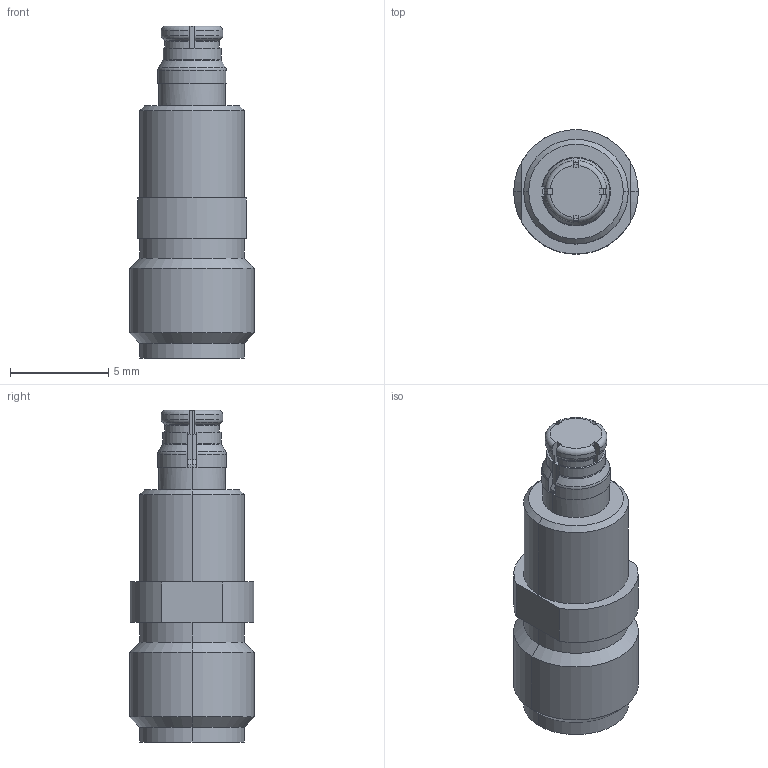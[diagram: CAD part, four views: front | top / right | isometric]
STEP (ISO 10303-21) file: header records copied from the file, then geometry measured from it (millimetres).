
FILE_DESCRIPTION (( 'STEP AP214' ), '1' );
FILE_NAME ('1115-6083.STEP', '2018-12-10T21:33:42', ( '' ), ( '' ), 'SwSTEP 2.0', 'SolidWorks 2016', '' );
FILE_SCHEMA (( 'AUTOMOTIVE_DESIGN' ));
Length unit declared in the file: inch
Products named in the file (1): 1115-6083
Bounding box: 6.35 x 6.35 x 16.92 mm (x, y, z)
Volume: 338 mm3; surface area: 371.3 mm2
Topology: 1 solids, 1 shells, 85 faces, 218 edges, 140 vertices
Faces by surface type: cylinder 34, plane 22, cone 15, torus 14
Entity records: 3728 total; most frequent: CARTESIAN_POINT 684, DIRECTION 438, ORIENTED_EDGE 436, EDGE_CURVE 218, AXIS2_PLACEMENT_3D 174, VERTEX_POINT 140, VECTOR 90, LINE 90
